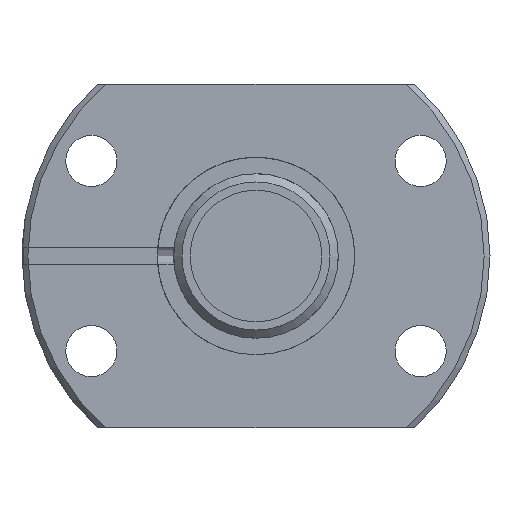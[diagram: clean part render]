
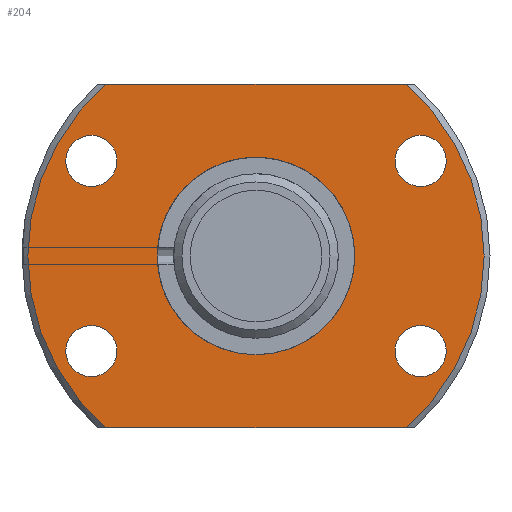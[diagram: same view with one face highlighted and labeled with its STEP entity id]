
A CAD part, left-side view. The second image highlights one B-rep face of the part: STEP entity #204.
In plain terms, the highlighted planar face has unit normal (-1, 0, 0).
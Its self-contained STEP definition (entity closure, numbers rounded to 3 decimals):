
#204 = ADVANCED_FACE( '', ( #311, #312, #313, #314, #315, #316 ), #317, .T. );
#311 = FACE_BOUND( '', #427, .T. );
#312 = FACE_OUTER_BOUND( '', #428, .T. );
#313 = FACE_BOUND( '', #429, .T. );
#314 = FACE_BOUND( '', #430, .T. );
#315 = FACE_BOUND( '', #431, .T. );
#316 = FACE_BOUND( '', #432, .T. );
#317 = PLANE( '', #433 );
#427 = EDGE_LOOP( '', ( #642 ) );
#428 = EDGE_LOOP( '', ( #643, #644, #645, #646 ) );
#429 = EDGE_LOOP( '', ( #647 ) );
#430 = EDGE_LOOP( '', ( #648 ) );
#431 = EDGE_LOOP( '', ( #649 ) );
#432 = EDGE_LOOP( '', ( #650 ) );
#433 = AXIS2_PLACEMENT_3D( '', #651, #652, #653 );
#642 = ORIENTED_EDGE( '', *, *, #718, .T. );
#643 = ORIENTED_EDGE( '', *, *, #738, .F. );
#644 = ORIENTED_EDGE( '', *, *, #703, .F. );
#645 = ORIENTED_EDGE( '', *, *, #709, .F. );
#646 = ORIENTED_EDGE( '', *, *, #739, .F. );
#647 = ORIENTED_EDGE( '', *, *, #695, .T. );
#648 = ORIENTED_EDGE( '', *, *, #697, .T. );
#649 = ORIENTED_EDGE( '', *, *, #699, .T. );
#650 = ORIENTED_EDGE( '', *, *, #701, .T. );
#651 = CARTESIAN_POINT( '', ( 0., 62.4, 0. ) );
#652 = DIRECTION( '', ( -1., 0., 0. ) );
#653 = DIRECTION( '', ( 0., 0., 1. ) );
#695 = EDGE_CURVE( '', #771, #771, #772, .T. );
#697 = EDGE_CURVE( '', #775, #775, #776, .T. );
#699 = EDGE_CURVE( '', #779, #779, #780, .T. );
#701 = EDGE_CURVE( '', #783, #783, #784, .T. );
#703 = EDGE_CURVE( '', #785, #788, #789, .T. );
#709 = EDGE_CURVE( '', #798, #785, #800, .T. );
#718 = EDGE_CURVE( '', #815, #815, #816, .T. );
#738 = EDGE_CURVE( '', #788, #849, #850, .T. );
#739 = EDGE_CURVE( '', #849, #798, #851, .T. );
#771 = VERTEX_POINT( '', #944 );
#772 = CIRCLE( '', #945, 7. );
#775 = VERTEX_POINT( '', #948 );
#776 = CIRCLE( '', #949, 7. );
#779 = VERTEX_POINT( '', #952 );
#780 = CIRCLE( '', #953, 7. );
#783 = VERTEX_POINT( '', #956 );
#784 = CIRCLE( '', #957, 7. );
#785 = VERTEX_POINT( '', #958 );
#788 = VERTEX_POINT( '', #964 );
#789 = CIRCLE( '', #965, 62.4 );
#798 = VERTEX_POINT( '', #981 );
#800 = LINE( '', #986, #987 );
#815 = VERTEX_POINT( '', #1043 );
#816 = CIRCLE( '', #1044, 27. );
#849 = VERTEX_POINT( '', #1118 );
#850 = LINE( '', #1119, #1120 );
#851 = CIRCLE( '', #1121, 62.4 );
#944 = CARTESIAN_POINT( '', ( 0., 45.033, -33. ) );
#945 = AXIS2_PLACEMENT_3D( '', #1168, #1169, #1170 );
#948 = CARTESIAN_POINT( '', ( 0., -45.033, -33. ) );
#949 = AXIS2_PLACEMENT_3D( '', #1174, #1175, #1176 );
#952 = CARTESIAN_POINT( '', ( 0., -45.033, 19. ) );
#953 = AXIS2_PLACEMENT_3D( '', #1180, #1181, #1182 );
#956 = CARTESIAN_POINT( '', ( 0., 45.033, 19. ) );
#957 = AXIS2_PLACEMENT_3D( '', #1186, #1187, #1188 );
#958 = CARTESIAN_POINT( '', ( 0., 41.046, -47. ) );
#964 = CARTESIAN_POINT( '', ( 0., 41.046, 47. ) );
#965 = AXIS2_PLACEMENT_3D( '', #1189, #1190, #1191 );
#981 = CARTESIAN_POINT( '', ( 0., -41.046, -47. ) );
#986 = CARTESIAN_POINT( '', ( 0., -64.1, -47. ) );
#987 = VECTOR( '', #1196, 1000. );
#1043 = CARTESIAN_POINT( '', ( 0., 0., -27. ) );
#1044 = AXIS2_PLACEMENT_3D( '', #1208, #1209, #1210 );
#1118 = CARTESIAN_POINT( '', ( 0., -41.046, 47. ) );
#1119 = CARTESIAN_POINT( '', ( 0., 64.1, 47. ) );
#1120 = VECTOR( '', #1252, 1000. );
#1121 = AXIS2_PLACEMENT_3D( '', #1253, #1254, #1255 );
#1168 = CARTESIAN_POINT( '', ( 0., 45.033, -26. ) );
#1169 = DIRECTION( '', ( 1., 0., 0. ) );
#1170 = DIRECTION( '', ( 0., 0., -1. ) );
#1174 = CARTESIAN_POINT( '', ( 0., -45.033, -26. ) );
#1175 = DIRECTION( '', ( 1., 0., 0. ) );
#1176 = DIRECTION( '', ( 0., 0., -1. ) );
#1180 = CARTESIAN_POINT( '', ( 0., -45.033, 26. ) );
#1181 = DIRECTION( '', ( 1., 0., 0. ) );
#1182 = DIRECTION( '', ( 0., 0., -1. ) );
#1186 = CARTESIAN_POINT( '', ( 0., 45.033, 26. ) );
#1187 = DIRECTION( '', ( 1., 0., 0. ) );
#1188 = DIRECTION( '', ( 0., 0., -1. ) );
#1189 = CARTESIAN_POINT( '', ( 0., 0., 0. ) );
#1190 = DIRECTION( '', ( 1., 0., 0. ) );
#1191 = DIRECTION( '', ( 0., 0., -1. ) );
#1196 = DIRECTION( '', ( 0., 1., 0. ) );
#1208 = CARTESIAN_POINT( '', ( 0., 0., 0. ) );
#1209 = DIRECTION( '', ( 1., 0., 0. ) );
#1210 = DIRECTION( '', ( 0., 0., -1. ) );
#1252 = DIRECTION( '', ( 0., -1., 0. ) );
#1253 = CARTESIAN_POINT( '', ( 0., 0., 0. ) );
#1254 = DIRECTION( '', ( 1., 0., 0. ) );
#1255 = DIRECTION( '', ( 0., 0., -1. ) );
